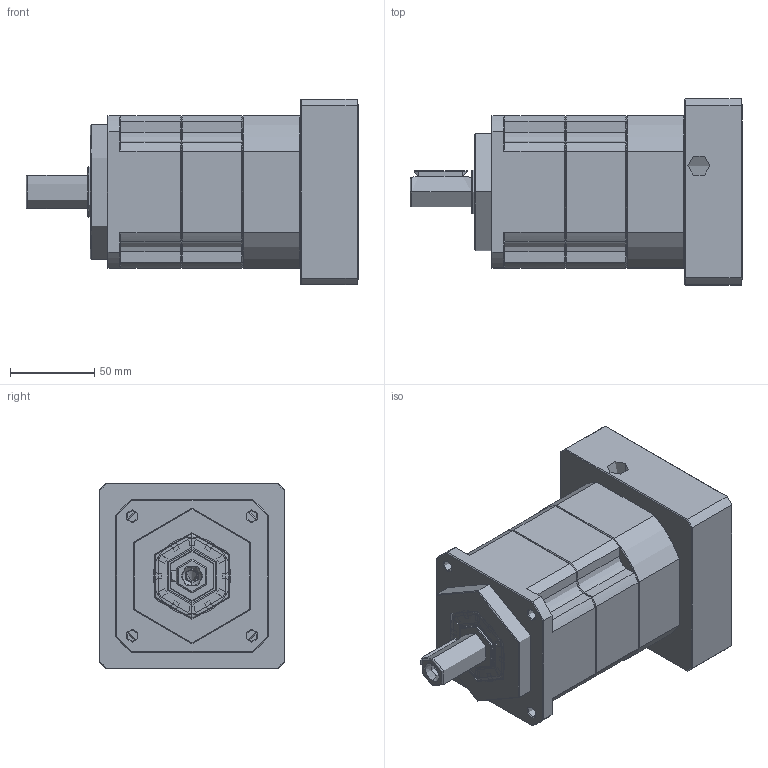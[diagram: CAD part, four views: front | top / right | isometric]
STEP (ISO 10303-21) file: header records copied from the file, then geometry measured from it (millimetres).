
FILE_DESCRIPTION (( 'STEP AP214' ), '1' );
FILE_NAME ('ZPB090-D20-L2-P1-19-95-130-M8.step', '2024-06-07T18:16:06', ( 'Windows 蚚誧' ), ( 'Organization' ), 'SwSTEP 2.0', 'SolidWorks 2016', '' );
FILE_SCHEMA (( 'AUTOMOTIVE_DESIGN' ));
Length unit declared in the file: millimetre
Products named in the file (1): ZPB090-D20-L2-P1-19-95-130-M8
Bounding box: 196.5 x 110 x 110 mm (x, y, z)
Topology: 0 solids, 37 shells, 1887 faces, 4983 edges, 3161 vertices
Faces by surface type: plane 969, bspline 389, cone 291, cylinder 236, torus 2
Full cylindrical faces by diameter (mm): 6.72 x1
Entity records: 96465 total; most frequent: CARTESIAN_POINT 48050, ORIENTED_EDGE 9917, DIRECTION 7699, EDGE_CURVE 4979, LINE 3273, VECTOR 3273, VERTEX_POINT 3159, AXIS2_PLACEMENT_3D 2213
